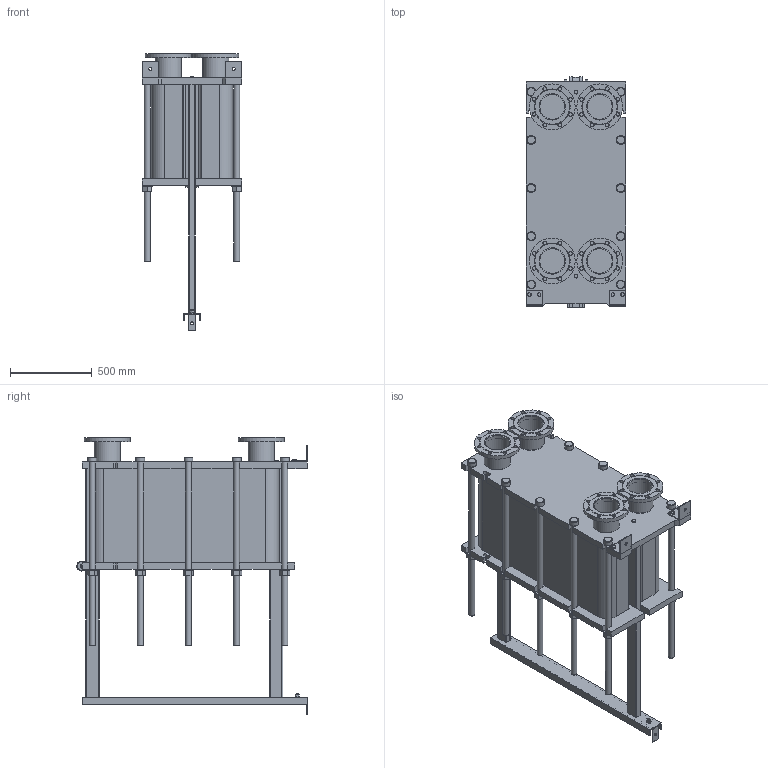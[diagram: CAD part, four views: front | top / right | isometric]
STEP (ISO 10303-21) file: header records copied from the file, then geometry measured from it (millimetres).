
FILE_DESCRIPTION(/* description */ (''),/* implementation_level */ '2;1');
FILE_NAME(/* name */ 'C:\Users\zhuro\Desktop\ENCO\TO\ЭН-041\ЭН-0,5-041-167-1.stp',/* time_stamp */ '2022-06-06T11:04:23+03:00',/* author */ ('zhuro'),/* organization */ (''),/* preprocessor_version */ 'ST-DEVELOPER v18.1',/* originating_system */ 'Autodesk Inventor 2022',/* authorisation */ '');
FILE_SCHEMA (('AUTOMOTIVE_DESIGN { 1 0 10303 214 3 1 1 }'));
Length unit declared in the file: millimetre
Products named in the file (1): ЭН-0,5-041-167-1
Bounding box: 610 x 1406.5 x 1692.5 mm (x, y, z)
Volume: 409229651.5 mm3; surface area: 10501806.2 mm2
Topology: 52 solids, 52 shells, 711 faces, 1696 edges, 1094 vertices
Faces by surface type: plane 487, cylinder 177, cone 41, torus 6
Full cylindrical faces by diameter (mm): 8 x4, 10 x2, 16 x8, 18 x3, 22 x32, 36 x24, 50 x1, 54 x10, 60 x12, 151 x4, 161 x8, 280 x4
Entity records: 22667 total; most frequent: CARTESIAN_POINT 5230, DIRECTION 3644, ORIENTED_EDGE 3392, EDGE_CURVE 1696, AXIS2_PLACEMENT_3D 1272, LINE 1100, VECTOR 1100, VERTEX_POINT 1094
